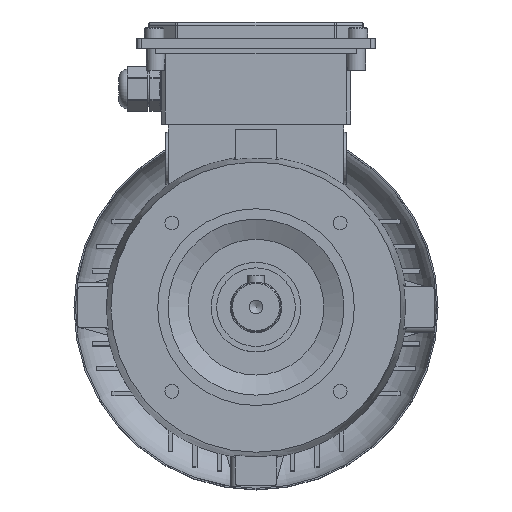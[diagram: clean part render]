
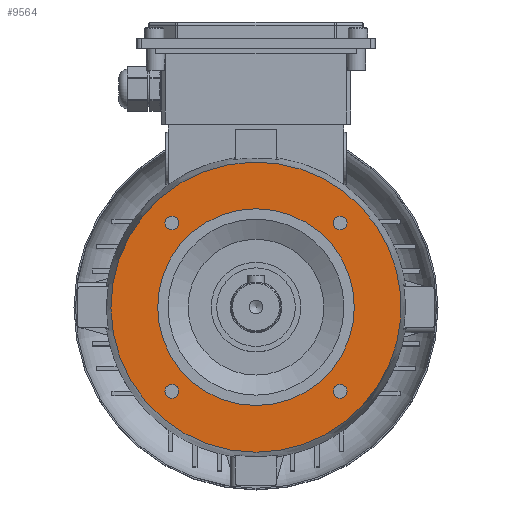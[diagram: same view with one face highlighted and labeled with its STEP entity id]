
A CAD part, top view. The second image highlights one B-rep face of the part: STEP entity #9564.
In plain terms, the highlighted planar face has unit normal (0, 0, 1).
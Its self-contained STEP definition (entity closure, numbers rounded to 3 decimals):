
#1925=FACE_BOUND('',#3184,.T.);
#1926=FACE_BOUND('',#3185,.T.);
#1927=FACE_BOUND('',#3186,.T.);
#1928=FACE_BOUND('',#3187,.T.);
#1929=FACE_BOUND('',#3188,.T.);
#2547=FACE_OUTER_BOUND('',#3183,.T.);
#3183=EDGE_LOOP('',(#8213));
#3184=EDGE_LOOP('',(#8214));
#3185=EDGE_LOOP('',(#8215));
#3186=EDGE_LOOP('',(#8216));
#3187=EDGE_LOOP('',(#8217));
#3188=EDGE_LOOP('',(#8218));
#3674=CIRCLE('',#10475,70.096);
#3675=CIRCLE('',#10476,3.324);
#3676=CIRCLE('',#10477,3.324);
#3677=CIRCLE('',#10478,3.324);
#3678=CIRCLE('',#10479,3.324);
#3679=CIRCLE('',#10480,47.5);
#4551=VERTEX_POINT('',#16444);
#4552=VERTEX_POINT('',#16446);
#4553=VERTEX_POINT('',#16448);
#4554=VERTEX_POINT('',#16450);
#4555=VERTEX_POINT('',#16452);
#4556=VERTEX_POINT('',#16454);
#5840=EDGE_CURVE('',#4551,#4551,#3674,.T.);
#5841=EDGE_CURVE('',#4552,#4552,#3675,.T.);
#5842=EDGE_CURVE('',#4553,#4553,#3676,.T.);
#5843=EDGE_CURVE('',#4554,#4554,#3677,.T.);
#5844=EDGE_CURVE('',#4555,#4555,#3678,.T.);
#5845=EDGE_CURVE('',#4556,#4556,#3679,.T.);
#8213=ORIENTED_EDGE('',*,*,#5840,.F.);
#8214=ORIENTED_EDGE('',*,*,#5841,.T.);
#8215=ORIENTED_EDGE('',*,*,#5842,.T.);
#8216=ORIENTED_EDGE('',*,*,#5843,.T.);
#8217=ORIENTED_EDGE('',*,*,#5844,.T.);
#8218=ORIENTED_EDGE('',*,*,#5845,.F.);
#9068=PLANE('',#10474);
#9564=ADVANCED_FACE('',(#2547,#1925,#1926,#1927,#1928,#1929),#9068,.T.);
#10474=AXIS2_PLACEMENT_3D('',#16443,#12919,#12920);
#10475=AXIS2_PLACEMENT_3D('',#16445,#12921,#12922);
#10476=AXIS2_PLACEMENT_3D('',#16447,#12923,#12924);
#10477=AXIS2_PLACEMENT_3D('',#16449,#12925,#12926);
#10478=AXIS2_PLACEMENT_3D('',#16451,#12927,#12928);
#10479=AXIS2_PLACEMENT_3D('',#16453,#12929,#12930);
#10480=AXIS2_PLACEMENT_3D('',#16455,#12931,#12932);
#12919=DIRECTION('center_axis',(0.,0.,1.));
#12920=DIRECTION('ref_axis',(1.,0.,0.));
#12921=DIRECTION('center_axis',(0.,0.,-1.));
#12922=DIRECTION('ref_axis',(0.,1.,0.));
#12923=DIRECTION('center_axis',(0.,0.,-1.));
#12924=DIRECTION('ref_axis',(0.,-1.,0.));
#12925=DIRECTION('center_axis',(0.,0.,-1.));
#12926=DIRECTION('ref_axis',(-1.,0.,0.));
#12927=DIRECTION('center_axis',(0.,0.,-1.));
#12928=DIRECTION('ref_axis',(0.,1.,0.));
#12929=DIRECTION('center_axis',(0.,0.,-1.));
#12930=DIRECTION('ref_axis',(1.,0.,0.));
#12931=DIRECTION('center_axis',(0.,0.,1.));
#12932=DIRECTION('ref_axis',(-1.,0.,0.));
#16443=CARTESIAN_POINT('Origin',(0.,0.,101.25));
#16444=CARTESIAN_POINT('',(0.,-70.096,101.25));
#16445=CARTESIAN_POINT('Origin',(0.,0.,101.25));
#16446=CARTESIAN_POINT('',(40.659,37.335,101.25));
#16447=CARTESIAN_POINT('Origin',(40.659,40.659,101.25));
#16448=CARTESIAN_POINT('',(37.335,-40.659,101.25));
#16449=CARTESIAN_POINT('Origin',(40.659,-40.659,101.25));
#16450=CARTESIAN_POINT('',(-40.659,-37.335,101.25));
#16451=CARTESIAN_POINT('Origin',(-40.659,-40.659,101.25));
#16452=CARTESIAN_POINT('',(-37.335,40.659,101.25));
#16453=CARTESIAN_POINT('Origin',(-40.659,40.659,101.25));
#16454=CARTESIAN_POINT('',(47.5,0.,101.25));
#16455=CARTESIAN_POINT('Origin',(0.,0.,101.25));
